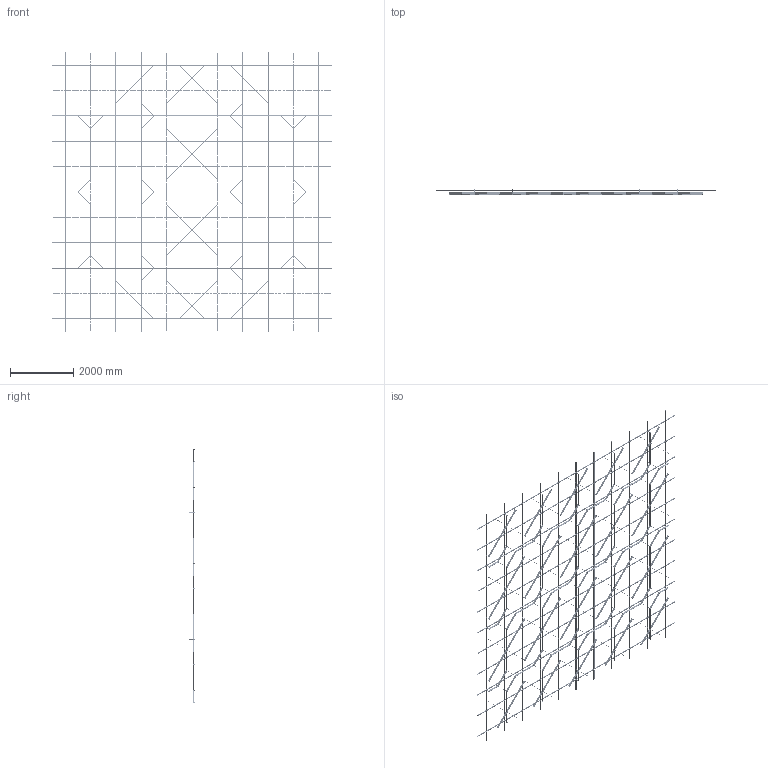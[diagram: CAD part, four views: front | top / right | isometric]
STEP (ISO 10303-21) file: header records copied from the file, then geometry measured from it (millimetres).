
FILE_DESCRIPTION (( 'STEP AP203' ), '1' );
FILE_NAME ('8 ìèíè ñ ïñ.STEP', '2025-11-26T07:55:54', ( '' ), ( '' ), 'SwSTEP 2.0', 'SolidWorks 2020', '' );
FILE_SCHEMA (( 'CONFIG_CONTROL_DESIGN' ));
Length unit declared in the file: millimetre
Products named in the file (5): 8 ìèíè ñ ïñ; 8.stp; SS.SEMA.2400 - Ñèìà-ïðîôèëü — îáðåçàí 1600; SS.SEMA.2400 - Ñèìà-ïðîôèëü; Ñèñòåìà â çîíå 8000õ8000
Assembly tree (90 placements, depth 3):
  8 ìèíè ñ ïñ
    Ñèñòåìà â çîíå 8000õ8000
      SS.SEMA.2400 - Ñèìà-ïðîôèëü  x66
      SS.SEMA.2400 - Ñèìà-ïðîôèëü — îáðåçàí 1600  x22
    8.stp
Bounding box: 8800 x 160 x 8800 mm (x, y, z)
Volume: 85536728.8 mm3; surface area: 47616395.9 mm2
Topology: 954 solids, 954 shells, 20384 faces, 54020 edges, 35544 vertices
Faces by surface type: cylinder 13170, plane 7214
Entity records: 103827 total; most frequent: CARTESIAN_POINT 23910, DIRECTION 15370, ORIENTED_EDGE 14888, EDGE_CURVE 7444, AXIS2_PLACEMENT_3D 7436, VERTEX_POINT 4952, EDGE_LOOP 4390, FACE_OUTER_BOUND 4228
